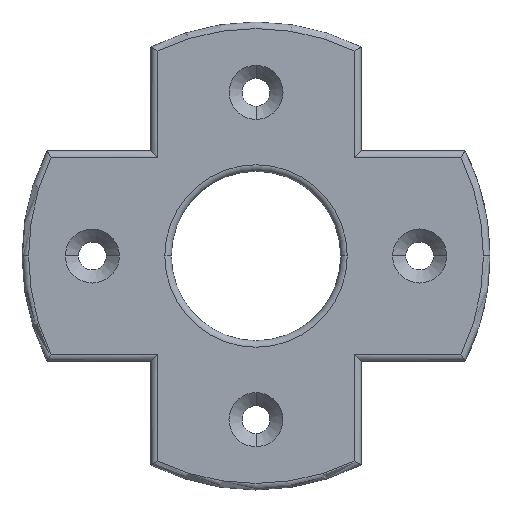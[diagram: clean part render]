
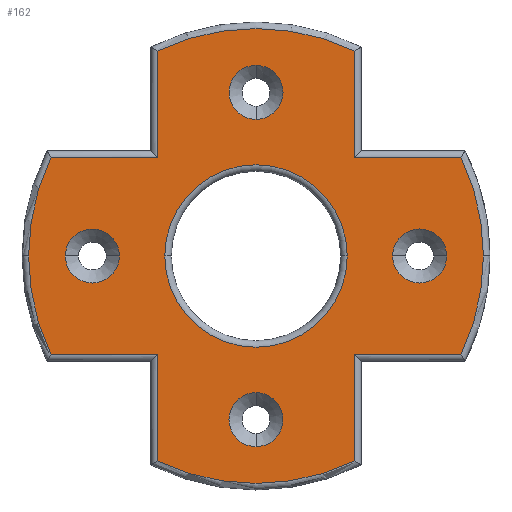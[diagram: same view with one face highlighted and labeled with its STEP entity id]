
A CAD part, left-side view. The second image highlights one B-rep face of the part: STEP entity #162.
In plain terms, the highlighted planar face has unit normal (-1, 0, 0).
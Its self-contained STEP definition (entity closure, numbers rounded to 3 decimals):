
#67=FACE_BOUND('',#518,.F.);
#68=FACE_BOUND('',#519,.F.);
#69=FACE_BOUND('',#520,.F.);
#70=FACE_BOUND('',#521,.F.);
#71=FACE_BOUND('',#522,.F.);
#162=ADVANCED_FACE('',(#67,#68,#69,#70,#71,#340),#1515,.T.);
#340=FACE_OUTER_BOUND('',#523,.F.);
#518=EDGE_LOOP('',(#752,#753));
#519=EDGE_LOOP('',(#754,#755));
#520=EDGE_LOOP('',(#756,#757));
#521=EDGE_LOOP('',(#758,#759));
#522=EDGE_LOOP('',(#760,#761));
#523=EDGE_LOOP('',(#762,#763,#764,#765,#766,#767,#768,#769,#770,#771,#772,#773,
#774,#775));
#752=ORIENTED_EDGE('',*,*,#1784,.T.);
#753=ORIENTED_EDGE('',*,*,#1783,.T.);
#754=ORIENTED_EDGE('',*,*,#1788,.T.);
#755=ORIENTED_EDGE('',*,*,#1787,.T.);
#756=ORIENTED_EDGE('',*,*,#1810,.T.);
#757=ORIENTED_EDGE('',*,*,#1809,.T.);
#758=ORIENTED_EDGE('',*,*,#1786,.T.);
#759=ORIENTED_EDGE('',*,*,#1785,.T.);
#760=ORIENTED_EDGE('',*,*,#1782,.T.);
#761=ORIENTED_EDGE('',*,*,#1781,.T.);
#762=ORIENTED_EDGE('',*,*,#1830,.T.);
#763=ORIENTED_EDGE('',*,*,#1812,.F.);
#764=ORIENTED_EDGE('',*,*,#1814,.F.);
#765=ORIENTED_EDGE('',*,*,#1815,.T.);
#766=ORIENTED_EDGE('',*,*,#1816,.T.);
#767=ORIENTED_EDGE('',*,*,#1818,.F.);
#768=ORIENTED_EDGE('',*,*,#1819,.T.);
#769=ORIENTED_EDGE('',*,*,#1820,.T.);
#770=ORIENTED_EDGE('',*,*,#1822,.F.);
#771=ORIENTED_EDGE('',*,*,#1823,.F.);
#772=ORIENTED_EDGE('',*,*,#1825,.T.);
#773=ORIENTED_EDGE('',*,*,#1826,.T.);
#774=ORIENTED_EDGE('',*,*,#1828,.F.);
#775=ORIENTED_EDGE('',*,*,#1829,.T.);
#1515=PLANE('',#3029);
#1607=CIRCLE('',#2854,1.65);
#1608=CIRCLE('',#2855,1.65);
#1609=CIRCLE('',#2856,1.65);
#1610=CIRCLE('',#2857,1.65);
#1611=CIRCLE('',#2858,1.65);
#1612=CIRCLE('',#2859,1.65);
#1613=CIRCLE('',#2860,1.65);
#1614=CIRCLE('',#2861,1.65);
#1621=CIRCLE('',#2868,5.575);
#1622=CIRCLE('',#2869,5.575);
#1624=CIRCLE('',#2871,13.9);
#1626=CIRCLE('',#2873,13.9);
#1628=CIRCLE('',#2875,13.9);
#1630=CIRCLE('',#2877,13.9);
#1631=CIRCLE('',#2878,13.9);
#1634=CIRCLE('',#2881,13.9);
#1781=EDGE_CURVE('',#2808,#2807,#1607,.T.);
#1782=EDGE_CURVE('',#2807,#2808,#1608,.T.);
#1783=EDGE_CURVE('',#2806,#2805,#1609,.T.);
#1784=EDGE_CURVE('',#2805,#2806,#1610,.T.);
#1785=EDGE_CURVE('',#2804,#2803,#1611,.T.);
#1786=EDGE_CURVE('',#2803,#2804,#1612,.T.);
#1787=EDGE_CURVE('',#2802,#2801,#1613,.T.);
#1788=EDGE_CURVE('',#2801,#2802,#1614,.T.);
#1809=EDGE_CURVE('',#2784,#2783,#1621,.T.);
#1810=EDGE_CURVE('',#2783,#2784,#1622,.T.);
#1812=EDGE_CURVE('',#2780,#2779,#1624,.T.);
#1814=EDGE_CURVE('',#2777,#2780,#1626,.T.);
#1815=EDGE_CURVE('',#2777,#2776,#2200,.T.);
#1816=EDGE_CURVE('',#2776,#2775,#2201,.T.);
#1818=EDGE_CURVE('',#2772,#2775,#1628,.T.);
#1819=EDGE_CURVE('',#2772,#2771,#2202,.T.);
#1820=EDGE_CURVE('',#2771,#2770,#2203,.T.);
#1822=EDGE_CURVE('',#2767,#2770,#1630,.T.);
#1823=EDGE_CURVE('',#2766,#2767,#1631,.T.);
#1825=EDGE_CURVE('',#2766,#2764,#2204,.T.);
#1826=EDGE_CURVE('',#2764,#2763,#2205,.T.);
#1828=EDGE_CURVE('',#2760,#2763,#1634,.T.);
#1829=EDGE_CURVE('',#2760,#2759,#2206,.T.);
#1830=EDGE_CURVE('',#2759,#2779,#2207,.T.);
#2200=LINE('',#4394,#2407);
#2201=LINE('',#4395,#2408);
#2202=LINE('',#4398,#2409);
#2203=LINE('',#4399,#2410);
#2204=LINE('',#4404,#2411);
#2205=LINE('',#4405,#2412);
#2206=LINE('',#4408,#2413);
#2207=LINE('',#4409,#2414);
#2407=VECTOR('',#3264,6.487);
#2408=VECTOR('',#3265,6.487);
#2409=VECTOR('',#3270,6.487);
#2410=VECTOR('',#3271,6.487);
#2411=VECTOR('',#3280,6.487);
#2412=VECTOR('',#3281,6.487);
#2413=VECTOR('',#3286,6.487);
#2414=VECTOR('',#3287,6.487);
#2759=VERTEX_POINT('',#4270);
#2760=VERTEX_POINT('',#4271);
#2763=VERTEX_POINT('',#4274);
#2764=VERTEX_POINT('',#4275);
#2766=VERTEX_POINT('',#4277);
#2767=VERTEX_POINT('',#4278);
#2770=VERTEX_POINT('',#4281);
#2771=VERTEX_POINT('',#4282);
#2772=VERTEX_POINT('',#4283);
#2775=VERTEX_POINT('',#4286);
#2776=VERTEX_POINT('',#4287);
#2777=VERTEX_POINT('',#4288);
#2779=VERTEX_POINT('',#4290);
#2780=VERTEX_POINT('',#4291);
#2783=VERTEX_POINT('',#4294);
#2784=VERTEX_POINT('',#4295);
#2801=VERTEX_POINT('',#4312);
#2802=VERTEX_POINT('',#4313);
#2803=VERTEX_POINT('',#4314);
#2804=VERTEX_POINT('',#4315);
#2805=VERTEX_POINT('',#4316);
#2806=VERTEX_POINT('',#4317);
#2807=VERTEX_POINT('',#4318);
#2808=VERTEX_POINT('',#4319);
#2854=AXIS2_PLACEMENT_3D('',#4344,#3212,#3213);
#2855=AXIS2_PLACEMENT_3D('',#4345,#3214,#3215);
#2856=AXIS2_PLACEMENT_3D('',#4346,#3216,#3217);
#2857=AXIS2_PLACEMENT_3D('',#4347,#3218,#3219);
#2858=AXIS2_PLACEMENT_3D('',#4348,#3220,#3221);
#2859=AXIS2_PLACEMENT_3D('',#4349,#3222,#3223);
#2860=AXIS2_PLACEMENT_3D('',#4350,#3224,#3225);
#2861=AXIS2_PLACEMENT_3D('',#4351,#3226,#3227);
#2868=AXIS2_PLACEMENT_3D('',#4388,#3252,#3253);
#2869=AXIS2_PLACEMENT_3D('',#4389,#3254,#3255);
#2871=AXIS2_PLACEMENT_3D('',#4391,#3258,#3259);
#2873=AXIS2_PLACEMENT_3D('',#4393,#3262,#3263);
#2875=AXIS2_PLACEMENT_3D('',#4397,#3268,#3269);
#2877=AXIS2_PLACEMENT_3D('',#4401,#3274,#3275);
#2878=AXIS2_PLACEMENT_3D('',#4402,#3276,#3277);
#2881=AXIS2_PLACEMENT_3D('',#4407,#3284,#3285);
#3029=AXIS2_PLACEMENT_3D('',#5088,#3761,#3762);
#3212=DIRECTION('',(-1.,0.,0.));
#3213=DIRECTION('',(0.,0.,1.));
#3214=DIRECTION('',(-1.,0.,0.));
#3215=DIRECTION('',(0.,0.,-1.));
#3216=DIRECTION('',(-1.,0.,0.));
#3217=DIRECTION('',(0.,-1.,0.));
#3218=DIRECTION('',(-1.,0.,0.));
#3219=DIRECTION('',(0.,1.,0.));
#3220=DIRECTION('',(-1.,0.,0.));
#3221=DIRECTION('',(0.,0.,1.));
#3222=DIRECTION('',(-1.,0.,0.));
#3223=DIRECTION('',(0.,0.,-1.));
#3224=DIRECTION('',(-1.,0.,0.));
#3225=DIRECTION('',(0.,-1.,0.));
#3226=DIRECTION('',(-1.,0.,0.));
#3227=DIRECTION('',(0.,1.,0.));
#3252=DIRECTION('',(-1.,0.,0.));
#3253=DIRECTION('',(0.,1.,0.));
#3254=DIRECTION('',(-1.,0.,0.));
#3255=DIRECTION('',(0.,-1.,0.));
#3258=DIRECTION('',(-1.,0.,0.));
#3259=DIRECTION('',(0.,-1.,0.));
#3262=DIRECTION('',(-1.,0.,0.));
#3263=DIRECTION('',(0.,-0.901,-0.434));
#3264=DIRECTION('',(0.,1.,0.));
#3265=DIRECTION('',(0.,0.,-1.));
#3268=DIRECTION('',(-1.,0.,0.));
#3269=DIRECTION('',(0.,0.434,-0.901));
#3270=DIRECTION('',(0.,0.,1.));
#3271=DIRECTION('',(0.,1.,0.));
#3274=DIRECTION('',(-1.,0.,0.));
#3275=DIRECTION('',(0.,1.,0.));
#3276=DIRECTION('',(-1.,0.,0.));
#3277=DIRECTION('',(0.,0.901,0.434));
#3280=DIRECTION('',(0.,-1.,0.));
#3281=DIRECTION('',(0.,0.,1.));
#3284=DIRECTION('',(-1.,0.,0.));
#3285=DIRECTION('',(0.,-0.434,0.901));
#3286=DIRECTION('',(0.,0.,-1.));
#3287=DIRECTION('',(0.,-1.,0.));
#3761=DIRECTION('',(-1.,0.,0.));
#3762=DIRECTION('',(0.,0.,1.));
#4270=CARTESIAN_POINT('',(-8.5,-103.035,56.035));
#4271=CARTESIAN_POINT('',(-8.5,-103.035,62.522));
#4274=CARTESIAN_POINT('',(-8.5,-90.965,62.522));
#4275=CARTESIAN_POINT('',(-8.5,-90.965,56.035));
#4277=CARTESIAN_POINT('',(-8.5,-84.478,56.035));
#4278=CARTESIAN_POINT('',(-8.5,-83.1,50.));
#4281=CARTESIAN_POINT('',(-8.5,-84.478,43.965));
#4282=CARTESIAN_POINT('',(-8.5,-90.965,43.965));
#4283=CARTESIAN_POINT('',(-8.5,-90.965,37.478));
#4286=CARTESIAN_POINT('',(-8.5,-103.035,37.478));
#4287=CARTESIAN_POINT('',(-8.5,-103.035,43.965));
#4288=CARTESIAN_POINT('',(-8.5,-109.522,43.965));
#4290=CARTESIAN_POINT('',(-8.5,-109.522,56.035));
#4291=CARTESIAN_POINT('',(-8.5,-110.9,50.));
#4294=CARTESIAN_POINT('',(-8.5,-102.575,50.));
#4295=CARTESIAN_POINT('',(-8.5,-91.425,50.));
#4312=CARTESIAN_POINT('',(-8.5,-105.35,50.));
#4313=CARTESIAN_POINT('',(-8.5,-108.65,50.));
#4314=CARTESIAN_POINT('',(-8.5,-97.,58.35));
#4315=CARTESIAN_POINT('',(-8.5,-97.,61.65));
#4316=CARTESIAN_POINT('',(-8.5,-85.35,50.));
#4317=CARTESIAN_POINT('',(-8.5,-88.65,50.));
#4318=CARTESIAN_POINT('',(-8.5,-97.,38.35));
#4319=CARTESIAN_POINT('',(-8.5,-97.,41.65));
#4344=CARTESIAN_POINT('',(-8.5,-97.,40.));
#4345=CARTESIAN_POINT('',(-8.5,-97.,40.));
#4346=CARTESIAN_POINT('',(-8.5,-87.,50.));
#4347=CARTESIAN_POINT('',(-8.5,-87.,50.));
#4348=CARTESIAN_POINT('',(-8.5,-97.,60.));
#4349=CARTESIAN_POINT('',(-8.5,-97.,60.));
#4350=CARTESIAN_POINT('',(-8.5,-107.,50.));
#4351=CARTESIAN_POINT('',(-8.5,-107.,50.));
#4388=CARTESIAN_POINT('',(-8.5,-97.,50.));
#4389=CARTESIAN_POINT('',(-8.5,-97.,50.));
#4391=CARTESIAN_POINT('',(-8.5,-97.,50.));
#4393=CARTESIAN_POINT('',(-8.5,-97.,50.));
#4394=CARTESIAN_POINT('',(-8.5,-109.522,43.965));
#4395=CARTESIAN_POINT('',(-8.5,-103.035,43.965));
#4397=CARTESIAN_POINT('',(-8.5,-97.,50.));
#4398=CARTESIAN_POINT('',(-8.5,-90.965,37.478));
#4399=CARTESIAN_POINT('',(-8.5,-90.965,43.965));
#4401=CARTESIAN_POINT('',(-8.5,-97.,50.));
#4402=CARTESIAN_POINT('',(-8.5,-97.,50.));
#4404=CARTESIAN_POINT('',(-8.5,-84.478,56.035));
#4405=CARTESIAN_POINT('',(-8.5,-90.965,56.035));
#4407=CARTESIAN_POINT('',(-8.5,-97.,50.));
#4408=CARTESIAN_POINT('',(-8.5,-103.035,62.522));
#4409=CARTESIAN_POINT('',(-8.5,-103.035,56.035));
#5088=CARTESIAN_POINT('',(-8.5,-111.3,35.7));
